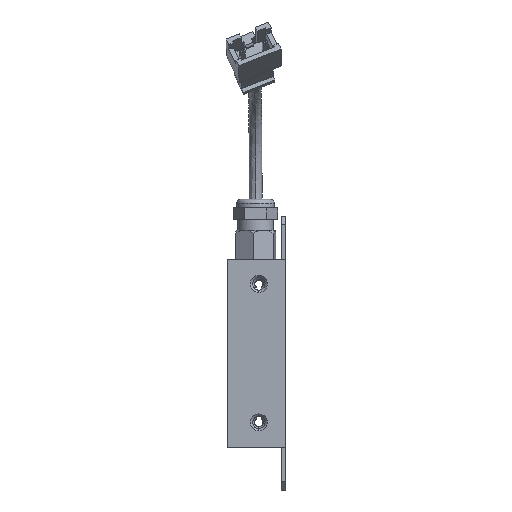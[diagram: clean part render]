
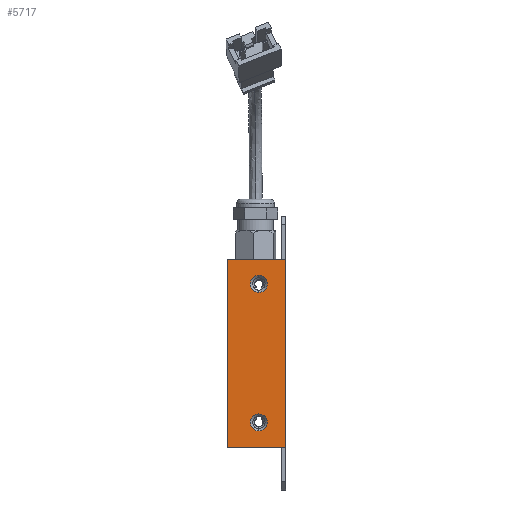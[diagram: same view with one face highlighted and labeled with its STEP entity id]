
A CAD part, left-side view. The second image highlights one B-rep face of the part: STEP entity #5717.
In plain terms, the highlighted planar face has unit normal (-1, 0, 0).
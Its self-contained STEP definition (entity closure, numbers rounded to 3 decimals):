
#400 = EDGE_CURVE ( 'NONE', #2635, #9555, #7998, .T. ) ;
#426 = ORIENTED_EDGE ( 'NONE', *, *, #12508, .F. ) ;
#551 = AXIS2_PLACEMENT_3D ( 'NONE', #8850, #2792, #9869 ) ;
#670 = VERTEX_POINT ( 'NONE', #9935 ) ;
#759 = EDGE_LOOP ( 'NONE', ( #9002, #1345 ) ) ;
#819 = DIRECTION ( 'NONE',  ( 0., 0., 1. ) ) ;
#931 = CARTESIAN_POINT ( 'NONE',  ( 0., 5.25, -3.8 ) ) ;
#1085 = DIRECTION ( 'NONE',  ( 0., 0., -1. ) ) ;
#1281 = EDGE_CURVE ( 'NONE', #3363, #2524, #11713, .T. ) ;
#1345 = ORIENTED_EDGE ( 'NONE', *, *, #4344, .F. ) ;
#1351 = AXIS2_PLACEMENT_3D ( 'NONE', #7747, #5765, #5794 ) ;
#1435 = EDGE_LOOP ( 'NONE', ( #6757, #11971, #11288, #6694 ) ) ;
#1599 = CARTESIAN_POINT ( 'NONE',  ( 0., 5.25, -5.8 ) ) ;
#1704 = CARTESIAN_POINT ( 'NONE',  ( 0., 5.25, -38.2 ) ) ;
#1798 = EDGE_LOOP ( 'NONE', ( #7455, #426 ) ) ;
#1945 = VERTEX_POINT ( 'NONE', #6595 ) ;
#2155 = LINE ( 'NONE', #6538, #7220 ) ;
#2504 = LINE ( 'NONE', #12429, #12926 ) ;
#2524 = VERTEX_POINT ( 'NONE', #10282 ) ;
#2604 = FACE_BOUND ( 'NONE', #1798, .T. ) ;
#2635 = VERTEX_POINT ( 'NONE', #11736 ) ;
#2792 = DIRECTION ( 'NONE',  ( -1., 0., 0. ) ) ;
#3077 = CIRCLE ( 'NONE', #7129, 2. ) ;
#3196 = VECTOR ( 'NONE', #8503, 1000. ) ;
#3363 = VERTEX_POINT ( 'NONE', #7426 ) ;
#3382 = CIRCLE ( 'NONE', #551, 2. ) ;
#3615 = DIRECTION ( 'NONE',  ( 0., 0., 1. ) ) ;
#3964 = AXIS2_PLACEMENT_3D ( 'NONE', #1704, #8404, #3615 ) ;
#4218 = EDGE_CURVE ( 'NONE', #11342, #2524, #2504, .T. ) ;
#4344 = EDGE_CURVE ( 'NONE', #670, #11892, #9602, .T. ) ;
#5322 = DIRECTION ( 'NONE',  ( 0., -1., 0. ) ) ;
#5554 = EDGE_CURVE ( 'NONE', #11892, #670, #3077, .T. ) ;
#5585 = EDGE_CURVE ( 'NONE', #1945, #3363, #2155, .T. ) ;
#5717 = ADVANCED_FACE ( 'NONE', ( #2604, #6364, #7685 ), #6490, .F. ) ;
#5755 = CARTESIAN_POINT ( 'NONE',  ( 0., 12.5, -46.062 ) ) ;
#5765 = DIRECTION ( 'NONE',  ( -1., 0., 0. ) ) ;
#5794 = DIRECTION ( 'NONE',  ( 0., 0., 1. ) ) ;
#5904 = LINE ( 'NONE', #5755, #3196 ) ;
#6361 = VECTOR ( 'NONE', #819, 1000. ) ;
#6364 = FACE_BOUND ( 'NONE', #759, .T. ) ;
#6451 = DIRECTION ( 'NONE',  ( -1., 0., 0. ) ) ;
#6490 = PLANE ( 'NONE',  #7553 ) ;
#6538 = CARTESIAN_POINT ( 'NONE',  ( 0., 10.5, -44. ) ) ;
#6554 = EDGE_CURVE ( 'NONE', #1945, #11342, #5904, .T. ) ;
#6595 = CARTESIAN_POINT ( 'NONE',  ( 0., 12.5, -44. ) ) ;
#6694 = ORIENTED_EDGE ( 'NONE', *, *, #6554, .F. ) ;
#6757 = ORIENTED_EDGE ( 'NONE', *, *, #5585, .T. ) ;
#7129 = AXIS2_PLACEMENT_3D ( 'NONE', #1599, #6451, #7489 ) ;
#7220 = VECTOR ( 'NONE', #12586, 1000. ) ;
#7426 = CARTESIAN_POINT ( 'NONE',  ( 0., -1.1, -44. ) ) ;
#7455 = ORIENTED_EDGE ( 'NONE', *, *, #400, .F. ) ;
#7489 = DIRECTION ( 'NONE',  ( 0., 0., 1. ) ) ;
#7553 = AXIS2_PLACEMENT_3D ( 'NONE', #11729, #9320, #1085 ) ;
#7685 = FACE_OUTER_BOUND ( 'NONE', #1435, .T. ) ;
#7747 = CARTESIAN_POINT ( 'NONE',  ( 0., 5.25, -5.8 ) ) ;
#7998 = CIRCLE ( 'NONE', #3964, 2. ) ;
#8404 = DIRECTION ( 'NONE',  ( -1., 0., 0. ) ) ;
#8503 = DIRECTION ( 'NONE',  ( 0., 0., 1. ) ) ;
#8850 = CARTESIAN_POINT ( 'NONE',  ( 0., 5.25, -38.2 ) ) ;
#9002 = ORIENTED_EDGE ( 'NONE', *, *, #5554, .F. ) ;
#9320 = DIRECTION ( 'NONE',  ( 1., 0., 0. ) ) ;
#9555 = VERTEX_POINT ( 'NONE', #12731 ) ;
#9602 = CIRCLE ( 'NONE', #1351, 2. ) ;
#9869 = DIRECTION ( 'NONE',  ( 0., 0., 1. ) ) ;
#9935 = CARTESIAN_POINT ( 'NONE',  ( 0., 5.25, -7.8 ) ) ;
#10282 = CARTESIAN_POINT ( 'NONE',  ( 0., -1.1, 0. ) ) ;
#10634 = CARTESIAN_POINT ( 'NONE',  ( 0., 12.5, 0. ) ) ;
#11288 = ORIENTED_EDGE ( 'NONE', *, *, #4218, .F. ) ;
#11342 = VERTEX_POINT ( 'NONE', #10634 ) ;
#11697 = CARTESIAN_POINT ( 'NONE',  ( 0., -1.1, -46.062 ) ) ;
#11713 = LINE ( 'NONE', #11697, #6361 ) ;
#11729 = CARTESIAN_POINT ( 'NONE',  ( 0., 10.5, 0. ) ) ;
#11736 = CARTESIAN_POINT ( 'NONE',  ( 0., 5.25, -36.2 ) ) ;
#11892 = VERTEX_POINT ( 'NONE', #931 ) ;
#11971 = ORIENTED_EDGE ( 'NONE', *, *, #1281, .T. ) ;
#12429 = CARTESIAN_POINT ( 'NONE',  ( 0., 10.5, 0. ) ) ;
#12508 = EDGE_CURVE ( 'NONE', #9555, #2635, #3382, .T. ) ;
#12586 = DIRECTION ( 'NONE',  ( 0., -1., 0. ) ) ;
#12731 = CARTESIAN_POINT ( 'NONE',  ( 0., 5.25, -40.2 ) ) ;
#12926 = VECTOR ( 'NONE', #5322, 1000. ) ;
